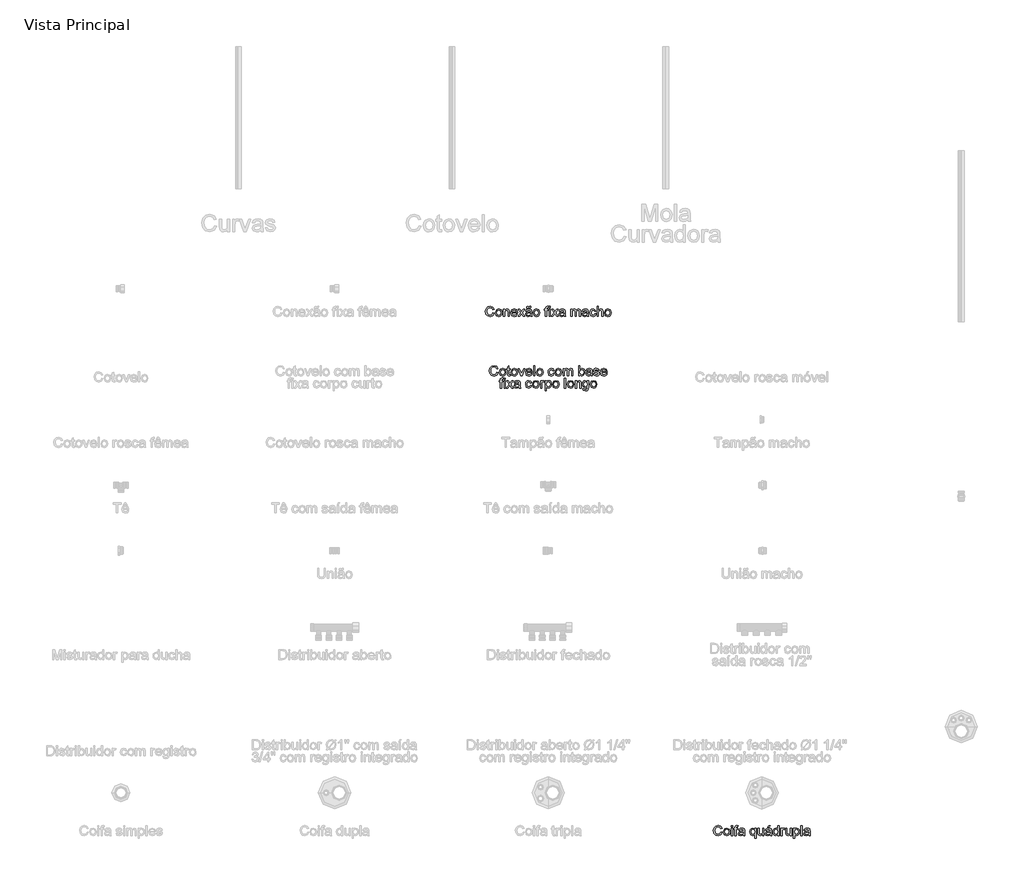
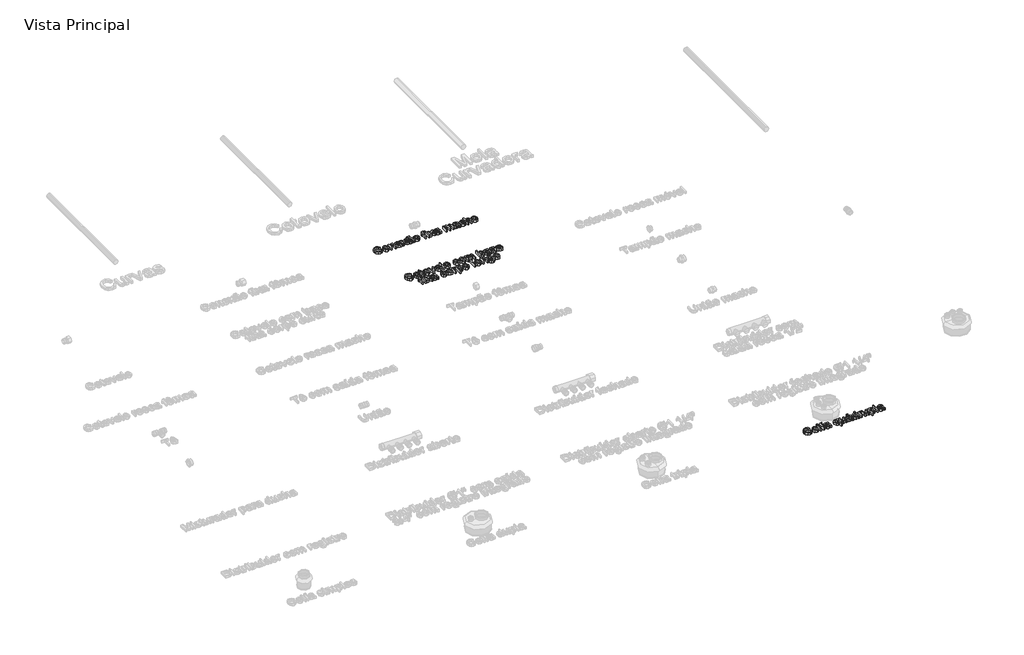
# One storey, part 10 of 12: 3 proxies.
"""IFC4 building model written with IfcOpenShell, lengths in millimetres."""

from ifc_helpers import new_model, si_unit, origin, origin_with_axes, place, context, project, spatial, polyline, outline, extrude, element, save

model = new_model("IFC4")

# Units and contexts
model_context = context("Model", 3, world=origin())
ifc_project = project(units=[si_unit("LENGTHUNIT", "METRE", prefix="MILLI")], contexts=[model_context])

# Site, building, storey
site = spatial("IfcSite", under=ifc_project)
building = spatial("IfcBuilding", under=site)
storey = spatial("IfcBuildingStorey", under=building, Name="Vista Principal", Elevation=0.0)

# Proxies
placement = place(None, origin())
element("IfcBuildingElementProxy", 1, Name="Legenda", ObjectType="Legenda", at=placement, inside=storey, context=model_context, shape_type="SweptSolid", body=[
    extrude(outline(polyline([(225.2093155, -14.518665), (229.6042791, -15.6517416), (224.3938437, -24.514632), (215.1918888, -27.5662131), (206.0457292, -25.2571405), (200.6807835, -18.5702721), (198.8395341, -9.1708871), (200.921133, 0.3830083), (206.8397412, 6.5763017), (215.2863118, 8.6922363), (224.0891148, 5.953968), (229.0549086, -1.7543861), (224.6599451, -2.8016235), (221.0547015, 2.6019499), (215.1146336, 4.2972727), (208.2389191, 2.4173958), (204.3546983, -2.6299452), (203.2344977, -9.1623032), (204.5607122, -16.7333146), (208.6895745, -21.5703497), (214.7541092, -23.1712496), (221.4796052, -20.9909356), (225.2093155, -14.518665)])), origin_with_axes(), (0.0, 0.0, 1.0), 10.0),
    extrude(outline(polyline([(233.9992426, -14.1066372), (237.8019162, -3.5055044), (245.5446059, -0.6470613), (253.849542, -4.1278381), (257.0728014, -13.7461128), (255.6478718, -21.5660578), (251.4975497, -25.9910651), (245.5446059, -27.5662131), (237.1881664, -24.0983122), (233.9992426, -14.1066372)]), holes=[polyline([(238.3942062, -14.0980533), (240.4285936, -20.9093884), (245.5446059, -23.1712496), (250.6434504, -20.8965126), (252.6778378, -13.9607107), (250.6305745, -7.303886), (245.5446059, -5.0420248), (240.4285936, -7.2953021), (238.3942062, -14.0980533)])]), origin_with_axes(), (0.0, 0.0, 1.0), 10.0),
    extrude(outline(polyline([(262.0171354, -27.0168427), (262.0171354, -1.1964317), (266.412099, -1.1964317), (266.412099, -4.8016753), (274.3608026, -0.6470613), (278.5111246, -1.4839928), (281.343816, -3.6814746), (282.6614467, -6.9133179), (282.8932123, -11.162355), (282.8932123, -27.0168427), (278.4982488, -27.0168427), (278.4982488, -11.754645), (277.9917979, -7.8661323), (276.202052, -5.8102851), (273.1848065, -5.0420248), (268.4164427, -6.7673914), (266.412099, -13.3169172), (266.412099, -27.0168427), (262.0171354, -27.0168427)])), origin_with_axes(), (0.0, 0.0, 1.0), 10.0),
    extrude(outline(polyline([(307.0140085, -19.3256564), (311.3231329, -19.8750269), (307.2929857, -25.5489935), (299.7863536, -27.5662131), (290.6616538, -24.0854363), (287.2881759, -14.321235), (290.6959895, -4.235137), (299.5374201, -0.6470613), (308.1256253, -4.2265531), (311.4604755, -14.2954833), (291.6831395, -15.4800633), (294.2111019, -21.1883656), (299.8721927, -23.1712496), (304.1813171, -22.2527708), (307.0140085, -19.3256564)]), holes=[polyline([(291.6831395, -11.0850997), (307.065512, -11.0850997), (305.3058098, -7.102164), (299.5202523, -5.0420248), (294.108095, -6.6858442), (291.6831395, -11.0850997)])]), origin_with_axes(), (0.0, 0.0, 1.0), 10.0),
    extrude(outline(polyline([(313.1085869, -27.0168427), (322.4993879, -14.0379659), (313.6579573, -1.1964317), (318.9456479, -1.1964317), (323.2118527, -7.3768492), (325.2033206, -10.2953797), (326.9286872, -7.9090519), (331.787182, -1.1964317), (337.0748726, -1.1964317), (327.7870785, -14.0379659), (336.7315161, -27.0168427), (331.4438255, -27.0168427), (326.0617119, -19.2140656), (325.0745619, -17.789136), (318.3962774, -27.0168427), (313.1085869, -27.0168427)])), origin_with_axes(), (0.0, 0.0, 1.0), 10.0),
    extrude(outline(polyline([(357.0582226, -23.72062), (352.7963097, -26.6992379), (348.0880333, -27.5662131), (341.7058938, -25.4803222), (339.4783683, -20.1497121), (340.3195918, -16.6732273), (342.5299494, -14.1495568), (345.6072823, -12.7074593), (349.4099559, -12.046498), (357.0324708, -10.5357293), (355.8478908, -6.312444), (350.9893959, -5.0420248), (346.5429289, -5.8875403), (344.4227023, -8.887618), (340.0277387, -8.3382475), (341.9290755, -4.0462909), (345.7575008, -1.5312043), (351.5559342, -0.6470613), (356.8822523, -1.4281974), (359.8909139, -3.3896215), (361.2385883, -6.3725314), (361.4531861, -10.2181245), (361.4531861, -15.6860772), (361.6763679, -23.321468), (362.551927, -27.0168427), (358.1569635, -27.0168427), (357.0582226, -23.72062)]), holes=[polyline([(357.0453467, -15.5530266), (349.9679103, -16.2783672), (346.1866965, -16.990832), (344.4742058, -18.1496603), (343.8733319, -19.8406912), (345.1823786, -22.2184352), (349.0236798, -23.1712496), (353.4701468, -22.1197202), (356.3371739, -19.5745899), (357.0453467, -15.5530266)])]), origin_with_axes(), (0.0, 0.0, 1.0), 10.0),
    extrude(outline(polyline([(343.3239614, 1.5504205), (344.6888036, 6.348828), (348.1824563, 8.1428659), (351.7018607, 6.7265202), (353.4787308, 5.9453841), (354.8607408, 8.1428659), (358.7063339, 8.1428659), (357.311448, 3.1985319), (353.9422621, 1.5504205), (350.4657772, 2.889511), (348.611652, 3.7479023), (347.1695545, 1.5504205), (343.3239614, 1.5504205)])), origin_with_axes(), (0.0, 0.0, 1.0), 10.0),
    extrude(outline(polyline([(366.3975202, -14.1066372), (370.2001937, -3.5055044), (377.9428834, -0.6470613), (386.2478195, -4.1278381), (389.4710789, -13.7461128), (388.0461493, -21.5660578), (383.8958273, -25.9910651), (377.9428834, -27.5662131), (369.5864439, -24.0983122), (366.3975202, -14.1066372)]), holes=[polyline([(370.7924837, -14.0980533), (372.8268712, -20.9093884), (377.9428834, -23.1712496), (383.0417279, -20.8965126), (385.0761153, -13.9607107), (383.028852, -7.303886), (377.9428834, -5.0420248), (372.8268712, -7.2953021), (370.7924837, -14.0980533)])]), origin_with_axes(), (0.0, 0.0, 1.0), 10.0),
    extrude(outline(polyline([(409.248415, -27.0168427), (409.248415, -5.5913953), (405.4028218, -5.5913953), (405.4028218, -1.1964317), (409.248415, -1.1964317), (409.248415, 1.404494), (409.7119463, 5.0698249), (411.9609315, 7.6879185), (416.3902308, 8.6922363), (420.3989182, 8.2115372), (419.7551247, 4.0912588), (417.2228703, 4.2972727), (414.4545583, 3.5676401), (413.6433785, 0.8465396), (413.6433785, -1.1964317), (418.5877125, -1.1964317), (418.5877125, -5.5913953), (413.6433785, -5.5913953), (413.6433785, -27.0168427), (409.248415, -27.0168427)])), origin_with_axes(), (0.0, 0.0, 1.0), 10.0),
    extrude(outline(polyline([(422.4333057, 3.7479023), (422.4333057, 8.1428659), (426.8282692, 8.1428659), (426.8282692, 3.7479023), (422.4333057, 3.7479023)])), origin_with_axes(), (0.0, 0.0, 1.0), 10.0),
    extrude(outline(polyline([(422.4333057, -27.0168427), (422.4333057, -1.1964317), (426.8282692, -1.1964317), (426.8282692, -27.0168427), (422.4333057, -27.0168427)])), origin_with_axes(), (0.0, 0.0, 1.0), 10.0),
    extrude(outline(polyline([(430.6738624, -27.0168427), (440.0646634, -14.0379659), (431.2232328, -1.1964317), (436.5109233, -1.1964317), (440.7771282, -7.3768492), (442.7685961, -10.2953797), (444.4939626, -7.9090519), (449.3524575, -1.1964317), (454.6401481, -1.1964317), (445.352354, -14.0379659), (454.2967915, -27.0168427), (449.009101, -27.0168427), (443.6269874, -19.2140656), (442.6398374, -17.789136), (435.9615529, -27.0168427), (430.6738624, -27.0168427)])), origin_with_axes(), (0.0, 0.0, 1.0), 10.0),
    extrude(outline(polyline([(474.623498, -23.72062), (470.3615851, -26.6992379), (465.6533087, -27.5662131), (459.2711692, -25.4803222), (457.0436438, -20.1497121), (457.8848673, -16.6732273), (460.0952249, -14.1495568), (463.1725578, -12.7074593), (466.9752314, -12.046498), (474.5977463, -10.5357293), (473.4131663, -6.312444), (468.5546714, -5.0420248), (464.1082043, -5.8875403), (461.9879778, -8.887618), (457.5930142, -8.3382475), (459.494351, -4.0462909), (463.3227763, -1.5312043), (469.1212097, -0.6470613), (474.4475278, -1.4281974), (477.4561894, -3.3896215), (478.8038638, -6.3725314), (479.0184616, -10.2181245), (479.0184616, -15.6860772), (479.2416434, -23.321468), (480.1172025, -27.0168427), (475.7222389, -27.0168427), (474.623498, -23.72062)]), holes=[polyline([(474.6106222, -15.5530266), (467.5331857, -16.2783672), (463.7519719, -16.990832), (462.0394813, -18.1496603), (461.4386073, -19.8406912), (462.7476541, -22.2184352), (466.5889553, -23.1712496), (471.0354223, -22.1197202), (473.9024493, -19.5745899), (474.6106222, -15.5530266)])]), origin_with_axes(), (0.0, 0.0, 1.0), 10.0),
    extrude(outline(polyline([(498.7957977, -27.0168427), (498.7957977, -1.1964317), (503.1907612, -1.1964317), (503.1907612, -5.4454688), (506.2122987, -1.9646919), (510.5128392, -0.6470613), (514.9163867, -1.9904437), (517.3370502, -5.7544896), (525.0969078, -0.6470613), (530.8438377, -2.7715798), (532.8567653, -9.3168136), (532.8567653, -27.0168427), (528.4618018, -27.0168427), (528.4618018, -11.2052745), (528.0540659, -7.5356516), (526.5776328, -5.7287379), (524.0668382, -5.0420248), (519.7448379, -6.801727), (518.0237633, -12.441358), (518.0237633, -27.0168427), (513.6287997, -27.0168427), (513.6287997, -10.7159915), (512.611606, -6.4583705), (509.2767557, -5.0420248), (506.0234526, -5.9862553), (503.8603065, -8.7502753), (503.1907612, -13.9950463), (503.1907612, -27.0168427), (498.7957977, -27.0168427)])), origin_with_axes(), (0.0, 0.0, 1.0), 10.0),
    extrude(outline(polyline([(555.9303241, -23.72062), (551.6684112, -26.6992379), (546.9601348, -27.5662131), (540.5779953, -25.4803222), (538.3504698, -20.1497121), (539.1916933, -16.6732273), (541.4020509, -14.1495568), (544.4793838, -12.7074593), (548.2820574, -12.046498), (555.9045723, -10.5357293), (554.7199923, -6.312444), (549.8614974, -5.0420248), (545.4150304, -5.8875403), (543.2948038, -8.887618), (538.8998402, -8.3382475), (540.801177, -4.0462909), (544.6296023, -1.5312043), (550.4280357, -0.6470613), (555.7543538, -1.4281974), (558.7630154, -3.3896215), (560.1106898, -6.3725314), (560.3252876, -10.2181245), (560.3252876, -15.6860772), (560.5484694, -23.321468), (561.4240285, -27.0168427), (557.029065, -27.0168427), (555.9303241, -23.72062)]), holes=[polyline([(555.9174482, -15.5530266), (548.8400117, -16.2783672), (545.058798, -16.990832), (543.3463073, -18.1496603), (542.7454334, -19.8406912), (544.0544801, -22.2184352), (547.8957813, -23.1712496), (552.3422483, -22.1197202), (555.2092754, -19.5745899), (555.9174482, -15.5530266)])]), origin_with_axes(), (0.0, 0.0, 1.0), 10.0),
    extrude(outline(polyline([(582.8494759, -17.6775451), (587.2444395, -18.2269155), (583.7164512, -25.0897542), (576.7463136, -27.5662131), (568.4156258, -24.1111881), (565.2696217, -14.2010602), (566.6130041, -6.900442), (570.7075307, -2.2093335), (576.6862262, -0.6470613), (583.3688027, -2.7930396), (586.6950691, -8.887618), (582.3001055, -9.4369884), (580.2614261, -6.1450577), (576.7205619, -5.0420248), (571.6260094, -7.2137549), (569.6645852, -14.0808855), (571.5830898, -21.0123954), (576.6003871, -23.1712496), (580.7421252, -21.8235752), (582.8494759, -17.6775451)])), origin_with_axes(), (0.0, 0.0, 1.0), 10.0),
    extrude(outline(polyline([(591.0900326, -27.0168427), (591.0900326, 8.1428659), (595.4849962, 8.1428659), (595.4849962, -4.7845074), (603.1332629, -0.6470613), (608.069013, -1.7758459), (611.0647987, -4.8960983), (611.9661096, -10.6730719), (611.9661096, -27.0168427), (607.571146, -27.0168427), (607.571146, -11.1280193), (606.1719682, -6.4927062), (602.2062002, -5.0420248), (598.6052486, -6.0205909), (596.2017529, -8.6730201), (595.4849962, -13.2997494), (595.4849962, -27.0168427), (591.0900326, -27.0168427)])), origin_with_axes(), (0.0, 0.0, 1.0), 10.0),
    extrude(outline(polyline([(616.9104436, -14.1066372), (620.7131171, -3.5055044), (628.4558069, -0.6470613), (636.7607429, -4.1278381), (639.9840023, -13.7461128), (638.5590727, -21.5660578), (634.4087507, -25.9910651), (628.4558069, -27.5662131), (620.0993674, -24.0983122), (616.9104436, -14.1066372)]), holes=[polyline([(621.3054072, -14.0980533), (623.3397946, -20.9093884), (628.4558069, -23.1712496), (633.5546513, -20.8965126), (635.5890388, -13.9607107), (633.5417755, -7.303886), (628.4558069, -5.0420248), (623.3397946, -7.2953021), (621.3054072, -14.0980533)])]), origin_with_axes(), (0.0, 0.0, 1.0), 10.0),
])
element("IfcBuildingElementProxy", 2, Name="Legenda", ObjectType="Legenda", at=placement, inside=storey, context=model_context, shape_type="SweptSolid", body=[
    extrude(outline(polyline([(238.9435767, -223.1730719), (243.3385402, -224.3061485), (238.1281049, -233.1690389), (228.9261499, -236.22062), (219.7799904, -233.9115473), (214.4150446, -227.2246789), (212.5737952, -217.825294), (214.6553942, -208.2713986), (220.5740024, -202.0781052), (229.020573, -199.9621706), (237.823376, -202.7004389), (242.7891698, -210.408793), (238.3942062, -211.4560304), (234.7889627, -206.052457), (228.8488947, -204.3571341), (221.9731802, -206.2370111), (218.0889595, -211.2843521), (216.9687588, -217.8167101), (218.2949734, -225.3877215), (222.4238357, -230.2247566), (228.4883703, -231.8256564), (235.2138664, -229.6453425), (238.9435767, -223.1730719)])), origin_with_axes(), (0.0, 0.0, 1.0), 10.0),
    extrude(outline(polyline([(247.7335038, -222.7610441), (251.5361773, -212.1599112), (259.2788671, -209.3014681), (267.5838031, -212.782245), (270.8070625, -222.4005197), (269.3821329, -230.2204647), (265.2318109, -234.6454719), (259.2788671, -236.22062), (250.9224276, -232.7527191), (247.7335038, -222.7610441)]), holes=[polyline([(252.1284674, -222.7524602), (254.1628548, -229.5637953), (259.2788671, -231.8256564), (264.3777115, -229.5509194), (266.412099, -222.6151176), (264.3648357, -215.9582928), (259.2788671, -213.6964317), (254.1628548, -215.9497089), (252.1284674, -222.7524602)])]), origin_with_axes(), (0.0, 0.0, 1.0), 10.0),
    extrude(outline(polyline([(285.0906941, -232.0059186), (285.6400646, -235.8000083), (282.3524258, -236.22062), (278.669927, -235.4909874), (276.8329696, -233.5767747), (276.300767, -228.5895212), (276.300767, -214.2458022), (273.0045443, -214.2458022), (273.0045443, -209.8508386), (276.300767, -209.8508386), (276.300767, -203.575998), (280.6957306, -200.9922401), (280.6957306, -209.8508386), (285.0906941, -209.8508386), (285.0906941, -214.2458022), (280.6957306, -214.2458022), (280.6957306, -228.4607625), (280.9274962, -230.7269155), (285.0906941, -232.0059186)])), origin_with_axes(), (0.0, 0.0, 1.0), 10.0),
    extrude(outline(polyline([(288.3869168, -222.7610441), (292.1895904, -212.1599112), (299.9322801, -209.3014681), (308.2372161, -212.782245), (311.4604755, -222.4005197), (310.0355459, -230.2204647), (305.8852239, -234.6454719), (299.9322801, -236.22062), (291.5758406, -232.7527191), (288.3869168, -222.7610441)]), holes=[polyline([(292.7818804, -222.7524602), (294.8162678, -229.5637953), (299.9322801, -231.8256564), (305.0311245, -229.5509194), (307.065512, -222.6151176), (305.0182487, -215.9582928), (299.9322801, -213.6964317), (294.8162678, -215.9497089), (292.7818804, -222.7524602)])]), origin_with_axes(), (0.0, 0.0, 1.0), 10.0),
    extrude(outline(polyline([(322.7397375, -235.6712496), (313.6579573, -209.8508386), (318.3104383, -209.8508386), (323.8127267, -225.3190502), (325.4694219, -230.5209016), (327.0917815, -225.6109033), (332.6284055, -209.8508386), (337.2808865, -209.8508386), (328.3106972, -235.6712496), (322.7397375, -235.6712496)])), origin_with_axes(), (0.0, 0.0, 1.0), 10.0),
    extrude(outline(polyline([(359.2042009, -227.9800633), (363.5133253, -228.5294338), (359.4831781, -234.2034004), (351.9765459, -236.22062), (342.8518462, -232.7398432), (339.4783683, -222.9756419), (342.8861818, -212.8895439), (351.7276125, -209.3014681), (360.3158176, -212.88096), (363.6506679, -222.9498902), (343.8733319, -224.1344702), (346.4012943, -229.8427725), (352.0623851, -231.8256564), (356.3715095, -230.9071777), (359.2042009, -227.9800633)]), holes=[polyline([(343.8733319, -219.7395066), (359.2557044, -219.7395066), (357.4960021, -215.7565709), (351.7104446, -213.6964317), (346.2982873, -215.3402511), (343.8733319, -219.7395066)])]), origin_with_axes(), (0.0, 0.0, 1.0), 10.0),
    extrude(outline(polyline([(368.0456315, -235.6712496), (368.0456315, -200.511541), (372.4405951, -200.511541), (372.4405951, -235.6712496), (368.0456315, -235.6712496)])), origin_with_axes(), (0.0, 0.0, 1.0), 10.0),
    extrude(outline(polyline([(377.9342995, -222.7610441), (381.7369731, -212.1599112), (389.4796628, -209.3014681), (397.7845988, -212.782245), (401.0078583, -222.4005197), (399.5829287, -230.2204647), (395.4326066, -234.6454719), (389.4796628, -236.22062), (381.1232233, -232.7527191), (377.9342995, -222.7610441)]), holes=[polyline([(382.3292631, -222.7524602), (384.3636505, -229.5637953), (389.4796628, -231.8256564), (394.5785073, -229.5509194), (396.6128947, -222.6151176), (394.5656314, -215.9582928), (389.4796628, -213.6964317), (384.3636505, -215.9497089), (382.3292631, -222.7524602)])]), origin_with_axes(), (0.0, 0.0, 1.0), 10.0),
    extrude(outline(polyline([(436.1675668, -226.331952), (440.5625304, -226.8813224), (437.034542, -233.744161), (430.0644045, -236.22062), (421.7337167, -232.7655949), (418.5877125, -222.8554671), (419.931095, -215.5548489), (424.0256216, -210.8637404), (430.0043171, -209.3014681), (436.6868936, -211.4474464), (440.0131599, -217.5420248), (435.6181964, -218.0913953), (433.579517, -214.7994646), (430.0386528, -213.6964317), (424.9441003, -215.8681618), (422.9826761, -222.7352923), (424.9011807, -229.6668023), (429.918478, -231.8256564), (434.0602161, -230.4779821), (436.1675668, -226.331952)])), origin_with_axes(), (0.0, 0.0, 1.0), 10.0),
    extrude(outline(polyline([(443.3093826, -222.7610441), (447.1120562, -212.1599112), (454.8547459, -209.3014681), (463.1596819, -212.782245), (466.3829414, -222.4005197), (464.9580118, -230.2204647), (460.8076897, -234.6454719), (454.8547459, -236.22062), (446.4983064, -232.7527191), (443.3093826, -222.7610441)]), holes=[polyline([(447.7043462, -222.7524602), (449.7387336, -229.5637953), (454.8547459, -231.8256564), (459.9535903, -229.5509194), (461.9879778, -222.6151176), (459.9407145, -215.9582928), (454.8547459, -213.6964317), (449.7387336, -215.9497089), (447.7043462, -222.7524602)])]), origin_with_axes(), (0.0, 0.0, 1.0), 10.0),
    extrude(outline(polyline([(471.3272754, -235.6712496), (471.3272754, -209.8508386), (475.7222389, -209.8508386), (475.7222389, -214.0998756), (478.7437764, -210.6190988), (483.0443169, -209.3014681), (487.4478644, -210.6448506), (489.8685279, -214.4088965), (497.6283855, -209.3014681), (503.3753154, -211.4259867), (505.388243, -217.9712205), (505.388243, -235.6712496), (500.9932795, -235.6712496), (500.9932795, -219.8596814), (500.5855436, -216.1900585), (499.1091105, -214.3831448), (496.5983159, -213.6964317), (492.2763156, -215.4561339), (490.555241, -221.0957649), (490.555241, -235.6712496), (486.1602774, -235.6712496), (486.1602774, -219.3703984), (485.1430837, -215.1127774), (481.8082334, -213.6964317), (478.5549303, -214.6406622), (476.3917842, -217.4046822), (475.7222389, -222.6494532), (475.7222389, -235.6712496), (471.3272754, -235.6712496)])), origin_with_axes(), (0.0, 0.0, 1.0), 10.0),
    extrude(outline(polyline([(530.1099131, -235.6712496), (525.7149495, -235.6712496), (525.7149495, -200.511541), (530.1099131, -200.511541), (530.1099131, -213.5505052), (537.0113793, -209.3014681), (541.4149268, -210.2585745), (544.8313243, -212.9496313), (546.9300911, -217.134289), (547.6897674, -222.374768), (544.5437632, -232.6067925), (536.9856276, -236.22062), (530.1099131, -231.5595551), (530.1099131, -235.6712496)]), holes=[polyline([(530.1099131, -222.5807819), (531.311661, -228.7268638), (536.6079354, -231.8256564), (541.3119199, -229.5423355), (543.2948038, -222.7352923), (541.393467, -215.9024974), (536.7967815, -213.6964317), (532.0927971, -215.9797526), (530.1099131, -222.5807819)])]), origin_with_axes(), (0.0, 0.0, 1.0), 10.0),
    extrude(outline(polyline([(569.1152148, -232.3750269), (564.8533019, -235.3536448), (560.1450255, -236.22062), (553.762886, -234.1347291), (551.5353605, -228.804119), (552.376584, -225.3276341), (554.5869417, -222.8039636), (557.6642745, -221.3618662), (561.4669481, -220.7009049), (569.089463, -219.1901362), (567.904883, -214.9668509), (563.0463881, -213.6964317), (558.5999211, -214.5419472), (556.4796945, -217.5420248), (552.0847309, -216.9926544), (553.9860677, -212.7006978), (557.814493, -210.1856112), (563.6129264, -209.3014681), (568.9392446, -210.0826042), (571.9479061, -212.0440284), (573.2955805, -215.0269383), (573.5101783, -218.8725314), (573.5101783, -224.3404841), (573.7333601, -231.9758749), (574.6089192, -235.6712496), (570.2139557, -235.6712496), (569.1152148, -232.3750269)]), holes=[polyline([(569.1023389, -224.2074335), (562.0249025, -224.9327741), (558.2436887, -225.6452389), (556.531198, -226.8040672), (555.9303241, -228.4950981), (557.2393708, -230.8728421), (561.080672, -231.8256564), (565.5271391, -230.7741271), (568.3941661, -228.2289968), (569.1023389, -224.2074335)])]), origin_with_axes(), (0.0, 0.0, 1.0), 10.0),
    extrude(outline(polyline([(577.9051419, -227.9800633), (582.3001055, -227.4306929), (584.3344929, -230.6925799), (588.9955578, -231.8256564), (593.4763605, -230.7870029), (594.9356257, -228.3491716), (593.4677766, -226.3748715), (588.9440543, -225.1216202), (582.3258572, -222.9713499), (579.4373704, -220.4605553), (578.4545124, -216.9153992), (579.2442324, -213.6406363), (581.3987946, -211.1384256), (584.1928583, -209.8379627), (587.9740721, -209.3014681), (593.3218501, -210.1641514), (596.7210797, -212.4989758), (598.2318484, -216.4432839), (593.8368849, -216.9926544), (592.1844816, -214.5676989), (588.3174287, -213.6964317), (584.1113112, -214.5290713), (582.8494759, -216.4690357), (585.0126221, -218.7180209), (588.7981278, -219.6536675), (595.2489386, -221.7223906), (598.2447243, -224.0657989), (599.3305893, -227.8856403), (598.0558782, -232.0917577), (594.3776714, -235.1433389), (588.9354704, -236.22062), (581.2700359, -234.143313), (577.9051419, -227.9800633)])), origin_with_axes(), (0.0, 0.0, 1.0), 10.0),
    extrude(outline(polyline([(622.3526446, -227.9800633), (626.661769, -228.5294338), (622.6316218, -234.2034004), (615.1249896, -236.22062), (606.0002899, -232.7398432), (602.626812, -222.9756419), (606.0346255, -212.8895439), (614.8760562, -209.3014681), (623.4642613, -212.88096), (626.7991116, -222.9498902), (607.0217756, -224.1344702), (609.549738, -229.8427725), (615.2108288, -231.8256564), (619.5199532, -230.9071777), (622.3526446, -227.9800633)]), holes=[polyline([(607.0217756, -219.7395066), (622.4041481, -219.7395066), (620.6444458, -215.7565709), (614.8588883, -213.6964317), (609.446731, -215.3402511), (607.0217756, -219.7395066)])]), origin_with_axes(), (0.0, 0.0, 1.0), 10.0),
    extrude(outline(polyline([(251.0297265, -278.3624358), (251.0297265, -256.9369884), (247.1841333, -256.9369884), (247.1841333, -252.5420248), (251.0297265, -252.5420248), (251.0297265, -249.9410991), (251.4932578, -246.2757682), (253.742243, -243.6576747), (258.1715423, -242.6533568), (262.1802297, -243.1340559), (261.5364362, -247.2543343), (259.0041818, -247.0483204), (256.2358698, -247.777953), (255.42469, -250.4990535), (255.42469, -252.5420248), (260.3690241, -252.5420248), (260.3690241, -256.9369884), (255.42469, -256.9369884), (255.42469, -278.3624358), (251.0297265, -278.3624358)])), origin_with_axes(), (0.0, 0.0, 1.0), 10.0),
    extrude(outline(polyline([(264.2146172, -278.3624358), (264.2146172, -252.5420248), (268.6095807, -252.5420248), (268.6095807, -278.3624358), (264.2146172, -278.3624358)])), origin_with_axes(), (0.0, 0.0, 1.0), 10.0),
    extrude(outline(polyline([(264.2146172, -247.5976908), (264.2146172, -243.2027273), (268.6095807, -243.2027273), (268.6095807, -247.5976908), (264.2146172, -247.5976908)])), origin_with_axes(), (0.0, 0.0, 1.0), 10.0),
    extrude(outline(polyline([(272.4551739, -278.3624358), (281.8459749, -265.383559), (273.0045443, -252.5420248), (278.2922349, -252.5420248), (282.5584397, -258.7224424), (284.5499076, -261.6409729), (286.2752742, -259.254645), (291.133769, -252.5420248), (296.4214596, -252.5420248), (287.1336655, -265.383559), (296.078103, -278.3624358), (290.7904125, -278.3624358), (285.4082989, -270.5596587), (284.4211489, -269.1347291), (277.7428644, -278.3624358), (272.4551739, -278.3624358)])), origin_with_axes(), (0.0, 0.0, 1.0), 10.0),
    extrude(outline(polyline([(316.4048096, -275.0662131), (312.1428966, -278.044831), (307.4346202, -278.9118063), (301.0524808, -276.8259153), (298.8249553, -271.4953052), (299.6661788, -268.0188204), (301.8765364, -265.4951499), (304.9538693, -264.0530525), (308.7565429, -263.3920911), (316.3790578, -261.8813224), (315.1944778, -257.6580371), (310.3359829, -256.387618), (305.8895159, -257.2331334), (303.7692893, -260.2332111), (299.3743257, -259.6838406), (301.2756625, -255.391884), (305.1040878, -252.8767975), (310.9025212, -251.9926544), (316.2288393, -252.7737905), (319.2375009, -254.7352147), (320.5851753, -257.7181245), (320.7997731, -261.5637176), (320.7997731, -267.0316704), (321.0229549, -274.6670612), (321.898514, -278.3624358), (317.5035504, -278.3624358), (316.4048096, -275.0662131)]), holes=[polyline([(316.3919337, -266.8986197), (309.3144972, -267.6239604), (305.5332835, -268.3364252), (303.8207928, -269.4952534), (303.2199188, -271.1862844), (304.5289656, -273.5640283), (308.3702668, -274.5168427), (312.8167338, -273.4653133), (315.6837608, -270.920183), (316.3919337, -266.8986197)])]), origin_with_axes(), (0.0, 0.0, 1.0), 10.0),
    extrude(outline(polyline([(357.0582226, -269.0231382), (361.4531861, -269.5725087), (357.9251978, -276.4353473), (350.9550603, -278.9118063), (342.6243725, -275.4567812), (339.4783683, -265.5466534), (340.8217507, -258.2460352), (344.9162773, -253.5549266), (350.8949729, -251.9926544), (357.5775493, -254.1386327), (360.9038157, -260.2332111), (356.5088521, -260.7825815), (354.4701727, -257.4906508), (350.9293085, -256.387618), (345.834756, -258.559348), (343.8733319, -265.4264786), (345.7918365, -272.3579885), (350.8091337, -274.5168427), (354.9508719, -273.1691683), (357.0582226, -269.0231382)])), origin_with_axes(), (0.0, 0.0, 1.0), 10.0),
    extrude(outline(polyline([(364.2000384, -265.4522303), (368.0027119, -254.8510975), (375.7454017, -251.9926544), (384.0503377, -255.4734312), (387.2735971, -265.091706), (385.8486675, -272.9116509), (381.6983455, -277.3366582), (375.7454017, -278.9118063), (367.3889621, -275.4439053), (364.2000384, -265.4522303)]), holes=[polyline([(368.5950019, -265.4436464), (370.6293894, -272.2549815), (375.7454017, -274.5168427), (380.8442461, -272.2421057), (382.8786335, -265.3063038), (380.8313702, -258.6494791), (375.7454017, -256.387618), (370.6293894, -258.6408952), (368.5950019, -265.4436464)])]), origin_with_axes(), (0.0, 0.0, 1.0), 10.0),
    extrude(outline(polyline([(392.2179311, -278.3624358), (392.2179311, -252.5420248), (396.0635242, -252.5420248), (396.0635242, -256.3618662), (398.7932086, -252.8424618), (401.5400609, -251.9926544), (405.9521923, -253.3489127), (404.4843431, -257.2889288), (401.3941344, -256.387618), (398.9090915, -257.2545932), (397.3253595, -259.6580889), (396.6128947, -264.791269), (396.6128947, -278.3624358), (392.2179311, -278.3624358)])), origin_with_axes(), (0.0, 0.0, 1.0), 10.0),
    extrude(outline(polyline([(408.6990445, -288.2511038), (408.6990445, -252.5420248), (413.0940081, -252.5420248), (413.0940081, -256.8511493), (416.1327134, -253.2072781), (420.2358239, -251.9926544), (425.8067836, -253.6922692), (429.4463628, -258.4820928), (430.6738624, -265.2548003), (429.2875604, -272.3751563), (425.2617051, -277.2250673), (419.7036213, -278.9118063), (415.8794879, -277.7830217), (413.0940081, -274.9288705), (413.0940081, -288.2511038), (408.6990445, -288.2511038)]), holes=[polyline([(413.0940081, -265.6582442), (414.9953449, -272.3536966), (419.6091982, -274.5168427), (424.3174746, -272.2764413), (426.2788988, -265.3320555), (424.3646861, -258.6194354), (419.7894604, -256.387618), (415.1241036, -258.76107), (413.0940081, -265.6582442)])]), origin_with_axes(), (0.0, 0.0, 1.0), 10.0),
    extrude(outline(polyline([(434.5194555, -265.4522303), (438.322129, -254.8510975), (446.0648188, -251.9926544), (454.3697548, -255.4734312), (457.5930142, -265.091706), (456.1680846, -272.9116509), (452.0177626, -277.3366582), (446.0648188, -278.9118063), (437.7083792, -275.4439053), (434.5194555, -265.4522303)]), holes=[polyline([(438.914419, -265.4436464), (440.9488065, -272.2549815), (446.0648188, -274.5168427), (451.1636632, -272.2421057), (453.1980506, -265.3063038), (451.1507873, -258.6494791), (446.0648188, -256.387618), (440.9488065, -258.6408952), (438.914419, -265.4436464)])]), origin_with_axes(), (0.0, 0.0, 1.0), 10.0),
    extrude(outline(polyline([(476.2716094, -278.3624358), (476.2716094, -243.2027273), (480.6665729, -243.2027273), (480.6665729, -278.3624358), (476.2716094, -278.3624358)])), origin_with_axes(), (0.0, 0.0, 1.0), 10.0),
    extrude(outline(polyline([(486.1602774, -265.4522303), (489.962951, -254.8510975), (497.7056407, -251.9926544), (506.0105767, -255.4734312), (509.2338361, -265.091706), (507.8089066, -272.9116509), (503.6585845, -277.3366582), (497.7056407, -278.9118063), (489.3492012, -275.4439053), (486.1602774, -265.4522303)]), holes=[polyline([(490.555241, -265.4436464), (492.5896284, -272.2549815), (497.7056407, -274.5168427), (502.8044851, -272.2421057), (504.8388726, -265.3063038), (502.7916093, -258.6494791), (497.7056407, -256.387618), (492.5896284, -258.6408952), (490.555241, -265.4436464)])]), origin_with_axes(), (0.0, 0.0, 1.0), 10.0),
    extrude(outline(polyline([(514.1781702, -278.3624358), (514.1781702, -252.5420248), (518.5731337, -252.5420248), (518.5731337, -256.1472684), (526.5218374, -251.9926544), (530.6721594, -252.8295859), (533.5048508, -255.0270677), (534.8224815, -258.258911), (535.0542471, -262.5079481), (535.0542471, -278.3624358), (530.6592835, -278.3624358), (530.6592835, -263.1002381), (530.1528327, -259.2117254), (528.3630868, -257.1558782), (525.3458413, -256.387618), (520.5774775, -258.1129845), (518.5731337, -264.6625103), (518.5731337, -278.3624358), (514.1781702, -278.3624358)])), origin_with_axes(), (0.0, 0.0, 1.0), 10.0),
    extrude(outline(polyline([(539.9985811, -280.5599176), (544.3935447, -281.109288), (545.8184743, -283.4269446), (550.0846792, -284.4055107), (554.5826497, -283.2981859), (556.728628, -280.1908093), (557.029065, -275.0662131), (550.1619344, -278.3624358), (542.2518584, -274.5254266), (539.4492107, -265.3234716), (540.706754, -258.5121365), (544.3463332, -253.6922692), (549.9473366, -251.9926544), (557.029065, -255.8382475), (557.029065, -252.5420248), (561.4240285, -252.5420248), (561.4240285, -274.8344475), (560.2222807, -283.3711492), (556.4153152, -287.341209), (549.99884, -288.8004743), (542.6896379, -286.7446271), (539.9985811, -280.5599176)]), holes=[polyline([(543.8441743, -265.0230347), (545.7197593, -271.8257859), (550.4280357, -273.9674722), (555.1277282, -271.8386618), (557.029065, -265.1517934), (555.0719327, -258.5979756), (550.3593644, -256.387618), (545.745511, -258.56364), (543.8441743, -265.0230347)])]), origin_with_axes(), (0.0, 0.0, 1.0), 10.0),
    extrude(outline(polyline([(566.917733, -265.4522303), (570.7204065, -254.8510975), (578.4630963, -251.9926544), (586.7680323, -255.4734312), (589.9912917, -265.091706), (588.5663621, -272.9116509), (584.4160401, -277.3366582), (578.4630963, -278.9118063), (570.1066568, -275.4439053), (566.917733, -265.4522303)]), holes=[polyline([(571.3126966, -265.4436464), (573.347084, -272.2549815), (578.4630963, -274.5168427), (583.5619407, -272.2421057), (585.5963282, -265.3063038), (583.5490649, -258.6494791), (578.4630963, -256.387618), (573.347084, -258.6408952), (571.3126966, -265.4436464)])]), origin_with_axes(), (0.0, 0.0, 1.0), 10.0),
])
element("IfcBuildingElementProxy", 3, Name="Legenda", ObjectType="Legenda", at=placement, inside=storey, context=model_context, shape_type="SweptSolid", body=[
    extrude(outline(polyline([(1025.7513965, -1837.168665), (1030.1463601, -1838.3017416), (1024.9359248, -1847.164632), (1015.7339698, -1850.2162131), (1006.5878103, -1847.9071405), (1001.2228645, -1841.2202721), (999.3816151, -1831.8208871), (1001.4632141, -1822.2669917), (1007.3818223, -1816.0736983), (1015.8283929, -1813.9577637), (1024.6311959, -1816.696032), (1029.5969897, -1824.4043861), (1025.2020261, -1825.4516235), (1021.5967825, -1820.0480501), (1015.6567146, -1818.3527273), (1008.7810001, -1820.2326042), (1004.8967794, -1825.2799452), (1003.7765787, -1831.8123032), (1005.1027933, -1839.3833146), (1009.2316555, -1844.2203497), (1015.2961902, -1845.8212496), (1022.0216862, -1843.6409356), (1025.7513965, -1837.168665)])), origin_with_axes(), (0.0, 0.0, 1.0), 10.0),
    extrude(outline(polyline([(1034.5413237, -1836.7566372), (1038.3439972, -1826.1555044), (1046.086687, -1823.2970613), (1054.391623, -1826.7778381), (1057.6148824, -1836.3961128), (1056.1899528, -1844.2160578), (1052.0396308, -1848.6410651), (1046.086687, -1850.2162131), (1037.7302474, -1846.7483122), (1034.5413237, -1836.7566372)]), holes=[polyline([(1038.9362873, -1836.7480533), (1040.9706747, -1843.5593884), (1046.086687, -1845.8212496), (1051.1855314, -1843.5465126), (1053.2199188, -1836.6107107), (1051.1726555, -1829.953886), (1046.086687, -1827.6920248), (1040.9706747, -1829.9453021), (1038.9362873, -1836.7480533)])]), origin_with_axes(), (0.0, 0.0, 1.0), 10.0),
    extrude(outline(polyline([(1062.5592164, -1849.6668427), (1062.5592164, -1823.8464317), (1066.95418, -1823.8464317), (1066.95418, -1849.6668427), (1062.5592164, -1849.6668427)])), origin_with_axes(), (0.0, 0.0, 1.0), 10.0),
    extrude(outline(polyline([(1062.5592164, -1818.9020977), (1062.5592164, -1814.5071341), (1066.95418, -1814.5071341), (1066.95418, -1818.9020977), (1062.5592164, -1818.9020977)])), origin_with_axes(), (0.0, 0.0, 1.0), 10.0),
    extrude(outline(polyline([(1074.6453662, -1849.6668427), (1074.6453662, -1828.2413953), (1070.7997731, -1828.2413953), (1070.7997731, -1823.8464317), (1074.6453662, -1823.8464317), (1074.6453662, -1821.245506), (1075.1088976, -1817.5801751), (1077.3578828, -1814.9620815), (1081.787182, -1813.9577637), (1085.7958695, -1814.4384628), (1085.152076, -1818.5587412), (1082.6198216, -1818.3527273), (1079.8515096, -1819.0823599), (1079.0403298, -1821.8034604), (1079.0403298, -1823.8464317), (1083.9846638, -1823.8464317), (1083.9846638, -1828.2413953), (1079.0403298, -1828.2413953), (1079.0403298, -1849.6668427), (1074.6453662, -1849.6668427)])), origin_with_axes(), (0.0, 0.0, 1.0), 10.0),
    extrude(outline(polyline([(1104.3113703, -1846.37062), (1100.0494574, -1849.3492379), (1095.341181, -1850.2162131), (1088.9590415, -1848.1303222), (1086.7315161, -1842.7997121), (1087.5727396, -1839.3232273), (1089.7830972, -1836.7995568), (1092.8604301, -1835.3574593), (1096.6631037, -1834.696498), (1104.2856186, -1833.1857293), (1103.1010386, -1828.962444), (1098.2425437, -1827.6920248), (1093.7960766, -1828.5375403), (1091.6758501, -1831.537618), (1087.2808865, -1830.9882475), (1089.1822233, -1826.6962909), (1093.0106486, -1824.1812043), (1098.809082, -1823.2970613), (1104.1354001, -1824.0781974), (1107.1440617, -1826.0396215), (1108.4917361, -1829.0225314), (1108.7063339, -1832.8681245), (1108.7063339, -1838.3360772), (1108.9295157, -1845.971468), (1109.8050748, -1849.6668427), (1105.4101112, -1849.6668427), (1104.3113703, -1846.37062)]), holes=[polyline([(1104.2984945, -1838.2030266), (1097.221058, -1838.9283672), (1093.4398442, -1839.640832), (1091.7273536, -1840.7996603), (1091.1264796, -1842.4906912), (1092.4355264, -1844.8684352), (1096.2768276, -1845.8212496), (1100.7232946, -1844.7697202), (1103.5903216, -1842.2245899), (1104.2984945, -1838.2030266)])]), origin_with_axes(), (0.0, 0.0, 1.0), 10.0),
    extrude(outline(polyline([(1144.4154129, -1859.5555107), (1144.4154129, -1846.1474383), (1141.6256411, -1849.0573848), (1137.8143836, -1850.2162131), (1130.0802778, -1846.5551741), (1126.8355586, -1836.5162876), (1128.1231456, -1829.554734), (1131.8571479, -1824.8850852), (1137.2220936, -1823.2970613), (1144.4154129, -1828.2242275), (1144.4154129, -1823.8464317), (1148.8103765, -1823.8464317), (1148.8103765, -1859.5555107), (1144.4154129, -1859.5555107)]), holes=[polyline([(1131.2305222, -1836.7566372), (1133.2091142, -1843.5550965), (1137.9517263, -1845.8212496), (1142.5054922, -1843.6666873), (1144.4154129, -1837.1085776), (1142.4024853, -1830.0568929), (1137.677041, -1827.6920248), (1133.1061072, -1829.8937986), (1131.2305222, -1836.7566372)])]), origin_with_axes(), (0.0, 0.0, 1.0), 10.0),
    extrude(outline(polyline([(1171.8839352, -1849.6668427), (1171.8839352, -1845.2289595), (1163.9523994, -1850.2162131), (1159.8192452, -1849.340654), (1156.969386, -1847.1431722), (1155.6603392, -1843.9070369), (1155.4028218, -1839.8210942), (1155.4028218, -1823.8464317), (1159.7977854, -1823.8464317), (1159.7977854, -1837.7523711), (1160.0638867, -1842.2331738), (1161.8021291, -1844.8641432), (1165.076892, -1845.8212496), (1168.7465149, -1844.8426835), (1171.1714704, -1842.1773784), (1171.8839352, -1837.2802559), (1171.8839352, -1823.8464317), (1176.2788988, -1823.8464317), (1176.2788988, -1849.6668427), (1171.8839352, -1849.6668427)])), origin_with_axes(), (0.0, 0.0, 1.0), 10.0),
    extrude(outline(polyline([(1190.0131599, -1821.0995795), (1193.3093826, -1814.5071341), (1198.8030871, -1814.5071341), (1193.3093826, -1821.0995795), (1190.0131599, -1821.0995795)])), origin_with_axes(), (0.0, 0.0, 1.0), 10.0),
    extrude(outline(polyline([(1198.8030871, -1846.37062), (1194.5411742, -1849.3492379), (1189.8328978, -1850.2162131), (1183.4507583, -1848.1303222), (1181.2232328, -1842.7997121), (1182.0644563, -1839.3232273), (1184.2748139, -1836.7995568), (1187.3521468, -1835.3574593), (1191.1548204, -1834.696498), (1198.7773353, -1833.1857293), (1197.5927553, -1828.962444), (1192.7342604, -1827.6920248), (1188.2877934, -1828.5375403), (1186.1675668, -1831.537618), (1181.7726032, -1830.9882475), (1183.67394, -1826.6962909), (1187.5023653, -1824.1812043), (1193.3007987, -1823.2970613), (1198.6271169, -1824.0781974), (1201.6357784, -1826.0396215), (1202.9834528, -1829.0225314), (1203.1980506, -1832.8681245), (1203.1980506, -1838.3360772), (1203.4212324, -1845.971468), (1204.2967915, -1849.6668427), (1199.901828, -1849.6668427), (1198.8030871, -1846.37062)]), holes=[polyline([(1198.7902112, -1838.2030266), (1191.7127748, -1838.9283672), (1187.931561, -1839.640832), (1186.2190703, -1840.7996603), (1185.6181964, -1842.4906912), (1186.9272431, -1844.8684352), (1190.7685443, -1845.8212496), (1195.2150113, -1844.7697202), (1198.0820384, -1842.2245899), (1198.7902112, -1838.2030266)])]), origin_with_axes(), (0.0, 0.0, 1.0), 10.0),
    extrude(outline(polyline([(1225.1728685, -1849.6668427), (1225.1728685, -1845.5208126), (1218.2456505, -1850.2162131), (1212.8034495, -1848.5165983), (1208.9578564, -1843.7739863), (1207.5930142, -1836.7823889), (1208.8505575, -1829.7864997), (1212.6188954, -1824.9709243), (1218.2284827, -1823.2970613), (1222.2800897, -1824.4945172), (1225.1728685, -1827.6061857), (1225.1728685, -1814.5071341), (1229.5678321, -1814.5071341), (1229.5678321, -1849.6668427), (1225.1728685, -1849.6668427)]), holes=[polyline([(1211.9879778, -1836.7652211), (1213.9708617, -1843.5679723), (1218.6490944, -1845.8212496), (1223.2715317, -1843.6709793), (1225.1728685, -1837.0999937), (1223.2371961, -1829.9667618), (1218.4688323, -1827.6920248), (1213.842103, -1829.8766308), (1211.9879778, -1836.7652211)])]), origin_with_axes(), (0.0, 0.0, 1.0), 10.0),
    extrude(outline(polyline([(1236.1602774, -1849.6668427), (1236.1602774, -1823.8464317), (1240.0058705, -1823.8464317), (1240.0058705, -1827.6662731), (1242.7355549, -1824.1468687), (1245.4824072, -1823.2970613), (1249.8945386, -1824.6533196), (1248.4266894, -1828.5933357), (1245.3364806, -1827.6920248), (1242.8514378, -1828.5590001), (1241.2677058, -1830.9624958), (1240.555241, -1836.0956759), (1240.555241, -1849.6668427), (1236.1602774, -1849.6668427)])), origin_with_axes(), (0.0, 0.0, 1.0), 10.0),
    extrude(outline(polyline([(1269.1225042, -1849.6668427), (1269.1225042, -1845.2289595), (1261.1909684, -1850.2162131), (1257.0578141, -1849.340654), (1254.207955, -1847.1431722), (1252.8989082, -1843.9070369), (1252.6413908, -1839.8210942), (1252.6413908, -1823.8464317), (1257.0363544, -1823.8464317), (1257.0363544, -1837.7523711), (1257.3024557, -1842.2331738), (1259.0406981, -1844.8641432), (1262.315461, -1845.8212496), (1265.9850839, -1844.8426835), (1268.4100394, -1842.1773784), (1269.1225042, -1837.2802559), (1269.1225042, -1823.8464317), (1273.5174677, -1823.8464317), (1273.5174677, -1849.6668427), (1269.1225042, -1849.6668427)])), origin_with_axes(), (0.0, 0.0, 1.0), 10.0),
    extrude(outline(polyline([(1279.5605427, -1859.5555107), (1279.5605427, -1823.8464317), (1283.9555062, -1823.8464317), (1283.9555062, -1828.1555562), (1286.9942115, -1824.511685), (1291.097322, -1823.2970613), (1296.6682817, -1824.9966761), (1300.3078609, -1829.7864997), (1301.5353605, -1836.5592072), (1300.1490585, -1843.6795632), (1296.1232032, -1848.5294742), (1290.5651194, -1850.2162131), (1286.7409861, -1849.0874285), (1283.9555062, -1846.2332774), (1283.9555062, -1859.5555107), (1279.5605427, -1859.5555107)]), holes=[polyline([(1283.9555062, -1836.9626511), (1285.856843, -1843.6581034), (1290.4706964, -1845.8212496), (1295.1789728, -1843.5808482), (1297.1403969, -1836.6364624), (1295.2261843, -1829.9238423), (1290.6509585, -1827.6920248), (1285.9856017, -1830.0654768), (1283.9555062, -1836.9626511)])]), origin_with_axes(), (0.0, 0.0, 1.0), 10.0),
    extrude(outline(polyline([(1306.4796945, -1849.6668427), (1306.4796945, -1814.5071341), (1310.8746581, -1814.5071341), (1310.8746581, -1849.6668427), (1306.4796945, -1849.6668427)])), origin_with_axes(), (0.0, 0.0, 1.0), 10.0),
    extrude(outline(polyline([(1333.9482168, -1846.37062), (1329.6863039, -1849.3492379), (1324.9780275, -1850.2162131), (1318.595888, -1848.1303222), (1316.3683625, -1842.7997121), (1317.209586, -1839.3232273), (1319.4199437, -1836.7995568), (1322.4972766, -1835.3574593), (1326.2999501, -1834.696498), (1333.9224651, -1833.1857293), (1332.7378851, -1828.962444), (1327.8793902, -1827.6920248), (1323.4329231, -1828.5375403), (1321.3126966, -1831.537618), (1316.917733, -1830.9882475), (1318.8190698, -1826.6962909), (1322.6474951, -1824.1812043), (1328.4459284, -1823.2970613), (1333.7722466, -1824.0781974), (1336.7809082, -1826.0396215), (1338.1285826, -1829.0225314), (1338.3431804, -1832.8681245), (1338.3431804, -1838.3360772), (1338.5663621, -1845.971468), (1339.4419213, -1849.6668427), (1335.0469577, -1849.6668427), (1333.9482168, -1846.37062)]), holes=[polyline([(1333.935341, -1838.2030266), (1326.8579045, -1838.9283672), (1323.0766907, -1839.640832), (1321.3642, -1840.7996603), (1320.7633261, -1842.4906912), (1322.0723729, -1844.8684352), (1325.913674, -1845.8212496), (1330.3601411, -1844.7697202), (1333.2271681, -1842.2245899), (1333.935341, -1838.2030266)])]), origin_with_axes(), (0.0, 0.0, 1.0), 10.0),
])

save(model, "model.ifc")
